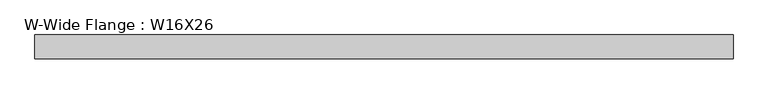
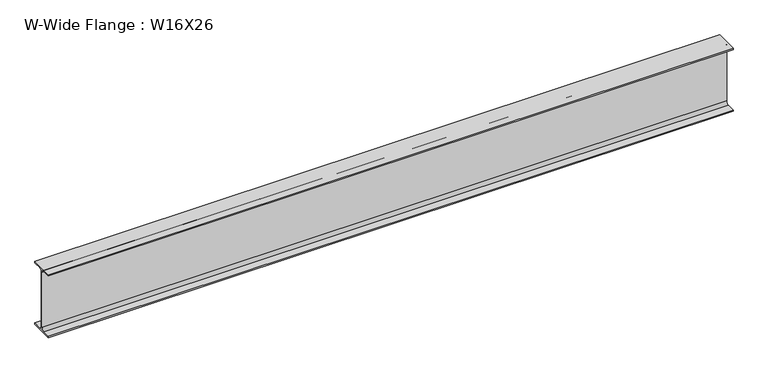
"""IFC4 building model written with IfcOpenShell, lengths in millimetres: beam geometry, W-Wide Flange : W16X26."""

from ifc_helpers import new_model, si_unit, point, frame, frame_2d, origin, place, context, project, spatial, polyline, circle_curve, trimmed, segment, composite_curve, outline, extrude, source, transform, mapped, element, save


def w_wide_flange_w16x26_389cf33c(model_context):
    return source(origin(), model_context, "Body", "SweptSolid", [
        extrude(outline(composite_curve([segment(polyline([(69.85, -190.5496094), (69.85, -199.2808594), (-69.85, -199.2808594), (-69.85, -190.5496094), (-21.43125, -190.5496094)]), True, "CONTINUOUS"), segment(trimmed(circle_curve(frame_2d((-21.43125, -172.2933594)), 18.25625), [point((-21.43125, -190.5496094))], [point((-3.175, -172.2933594))], True, "CARTESIAN"), True, "CONTINUOUS"), segment(polyline([(-3.175, -172.2933594), (-3.175, 172.2933594)]), True, "CONTINUOUS"), segment(trimmed(circle_curve(frame_2d((-21.43125, 172.2933594)), 18.25625), [point((-3.175, 172.2933594))], [point((-21.43125, 190.5496094))], True, "CARTESIAN"), True, "CONTINUOUS"), segment(polyline([(-21.43125, 190.5496094), (-69.85, 190.5496094), (-69.85, 199.2808594), (69.85, 199.2808594), (69.85, 190.5496094), (21.43125, 190.5496094)]), True, "CONTINUOUS"), segment(trimmed(circle_curve(frame_2d((21.43125, 172.2933594)), 18.25625), [point((21.43125, 190.5496094))], [point((3.175, 172.2933594))], True, "CARTESIAN"), True, "CONTINUOUS"), segment(polyline([(3.175, 172.2933594), (3.175, -172.2933594)]), True, "CONTINUOUS"), segment(trimmed(circle_curve(frame_2d((21.43125, -172.2933594)), 18.25625), [point((3.175, -172.2933594))], [point((21.43125, -190.5496094))], True, "CARTESIAN"), True, "CONTINUOUS"), segment(polyline([(21.43125, -190.5496094), (69.85, -190.5496094)]), True, "CONTINUOUS")], self_intersect=False)), frame((-2044.7, 0.0, 0.0), z_axis=(1.0, 0.0, 0.0), x_axis=(0.0, 1.0, 0.0)), (0.0, 0.0, 1.0), 4089.4),
    ])


if __name__ == "__main__":
    model = new_model("IFC4")
    model_context = context("Model", 3, world=origin())
    ifc_project = project(units=[si_unit("LENGTHUNIT", "METRE", prefix="MILLI")], contexts=[model_context])
    site = spatial("IfcSite", under=ifc_project)
    building = spatial("IfcBuilding", under=site)
    placement = place(None, origin())
    w_wide_flange_w16x26_shape = w_wide_flange_w16x26_389cf33c(model_context)
    element("IfcBeam", 1, ObjectType="W-Wide Flange : W16X26", at=placement, inside=building, context=model_context, shape_type="MappedRepresentation", body=[
        mapped(w_wide_flange_w16x26_shape, transform((0.0, 0.0, 0.0), x_axis=(1.0, 0.0, 0.0), y_axis=(0.0, 1.0, 0.0), z_axis=(0.0, 0.0, 1.0))),
    ])
    save(model, "model.ifc")
